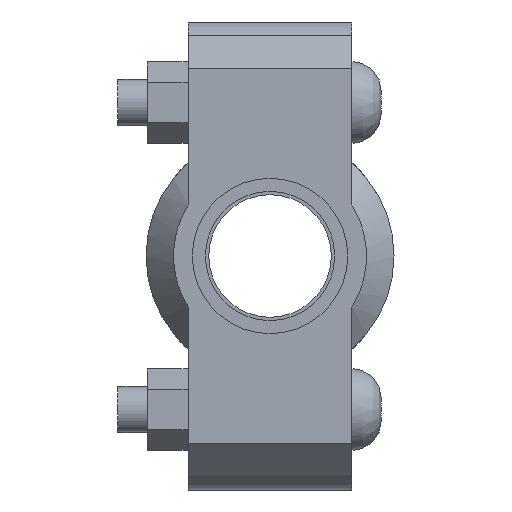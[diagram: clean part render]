
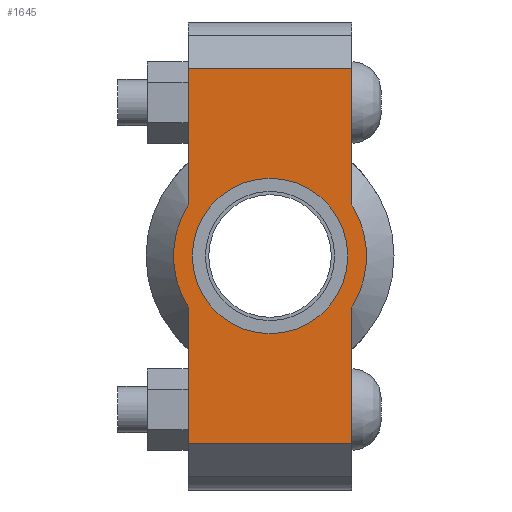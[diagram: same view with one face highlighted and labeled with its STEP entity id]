
A CAD part, left-side view. The second image highlights one B-rep face of the part: STEP entity #1645.
In plain terms, the highlighted planar face has unit normal (-1, 0, 0) as drawn and (0, 0, 1) by its records, which use the part's own axes.
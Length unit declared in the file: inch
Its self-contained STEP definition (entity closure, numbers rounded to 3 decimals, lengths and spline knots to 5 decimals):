
#200=LINE('',#2845,#297);
#215=LINE('',#2904,#312);
#223=LINE('',#2934,#320);
#225=LINE('',#2937,#322);
#226=LINE('',#2942,#323);
#227=LINE('',#2943,#324);
#297=VECTOR('',#2309,0.3937);
#312=VECTOR('',#2344,0.3937);
#320=VECTOR('',#2364,0.3937);
#322=VECTOR('',#2368,0.3937);
#323=VECTOR('',#2373,0.3937);
#324=VECTOR('',#2374,0.3937);
#388=FACE_BOUND('',#565,.T.);
#456=FACE_OUTER_BOUND('',#564,.T.);
#564=EDGE_LOOP('',(#1346,#1347,#1348,#1349,#1350,#1351,#1352,#1353));
#565=EDGE_LOOP('',(#1354));
#647=CIRCLE('',#1873,0.83);
#671=CIRCLE('',#1925,1.031);
#672=CIRCLE('',#1926,1.031);
#743=VERTEX_POINT('',#2671);
#784=VERTEX_POINT('',#2842);
#785=VERTEX_POINT('',#2844);
#806=VERTEX_POINT('',#2899);
#807=VERTEX_POINT('',#2903);
#816=VERTEX_POINT('',#2929);
#817=VERTEX_POINT('',#2933);
#818=VERTEX_POINT('',#2939);
#819=VERTEX_POINT('',#2941);
#907=EDGE_CURVE('',#743,#743,#647,.T.);
#964=EDGE_CURVE('',#785,#784,#200,.T.);
#989=EDGE_CURVE('',#807,#806,#215,.T.);
#1002=EDGE_CURVE('',#817,#816,#223,.T.);
#1004=EDGE_CURVE('',#817,#784,#225,.T.);
#1005=EDGE_CURVE('',#816,#818,#671,.T.);
#1006=EDGE_CURVE('',#818,#819,#226,.T.);
#1007=EDGE_CURVE('',#807,#819,#227,.T.);
#1008=EDGE_CURVE('',#806,#785,#672,.T.);
#1346=ORIENTED_EDGE('',*,*,#1004,.F.);
#1347=ORIENTED_EDGE('',*,*,#1002,.T.);
#1348=ORIENTED_EDGE('',*,*,#1005,.T.);
#1349=ORIENTED_EDGE('',*,*,#1006,.T.);
#1350=ORIENTED_EDGE('',*,*,#1007,.F.);
#1351=ORIENTED_EDGE('',*,*,#989,.T.);
#1352=ORIENTED_EDGE('',*,*,#1008,.T.);
#1353=ORIENTED_EDGE('',*,*,#964,.T.);
#1354=ORIENTED_EDGE('',*,*,#907,.T.);
#1485=PLANE('',#1924);
#1645=ADVANCED_FACE('',(#456,#388),#1485,.T.);
#1873=AXIS2_PLACEMENT_3D('',#2673,#2199,#2200);
#1924=AXIS2_PLACEMENT_3D('',#2938,#2369,#2370);
#1925=AXIS2_PLACEMENT_3D('',#2940,#2371,#2372);
#1926=AXIS2_PLACEMENT_3D('',#2944,#2375,#2376);
#2199=DIRECTION('center_axis',(0.,0.,-1.));
#2200=DIRECTION('ref_axis',(-1.,0.,0.));
#2309=DIRECTION('',(-1.,0.,0.));
#2344=DIRECTION('',(-1.,0.,0.));
#2364=DIRECTION('',(1.,0.,0.));
#2368=DIRECTION('',(0.,1.,0.));
#2369=DIRECTION('center_axis',(0.,0.,1.));
#2370=DIRECTION('ref_axis',(1.,0.,0.));
#2371=DIRECTION('center_axis',(0.,0.,1.));
#2372=DIRECTION('ref_axis',(-1.,0.,0.));
#2373=DIRECTION('',(1.,0.,0.));
#2374=DIRECTION('',(0.,-1.,0.));
#2375=DIRECTION('center_axis',(0.,0.,1.));
#2376=DIRECTION('ref_axis',(-1.,0.,0.));
#2671=CARTESIAN_POINT('',(0.83,0.,0.94));
#2673=CARTESIAN_POINT('Origin',(0.,0.,0.94));
#2842=CARTESIAN_POINT('',(-2.,0.875,0.94));
#2844=CARTESIAN_POINT('',(-0.54529,0.875,0.94));
#2845=CARTESIAN_POINT('',(2.5,0.875,0.94));
#2899=CARTESIAN_POINT('',(0.54529,0.875,0.94));
#2903=CARTESIAN_POINT('',(2.,0.875,0.94));
#2904=CARTESIAN_POINT('',(2.5,0.875,0.94));
#2929=CARTESIAN_POINT('',(-0.54529,-0.875,0.94));
#2933=CARTESIAN_POINT('',(-2.,-0.875,0.94));
#2934=CARTESIAN_POINT('',(-2.5,-0.875,0.94));
#2937=CARTESIAN_POINT('',(-2.,0.4375,0.94));
#2938=CARTESIAN_POINT('Origin',(0.,0.,
0.94));
#2939=CARTESIAN_POINT('',(0.54529,-0.875,0.94));
#2940=CARTESIAN_POINT('Origin',(0.,0.,0.94));
#2941=CARTESIAN_POINT('',(2.,-0.875,0.94));
#2942=CARTESIAN_POINT('',(-2.5,-0.875,0.94));
#2943=CARTESIAN_POINT('',(2.,-0.4375,0.94));
#2944=CARTESIAN_POINT('Origin',(0.,0.,0.94));
